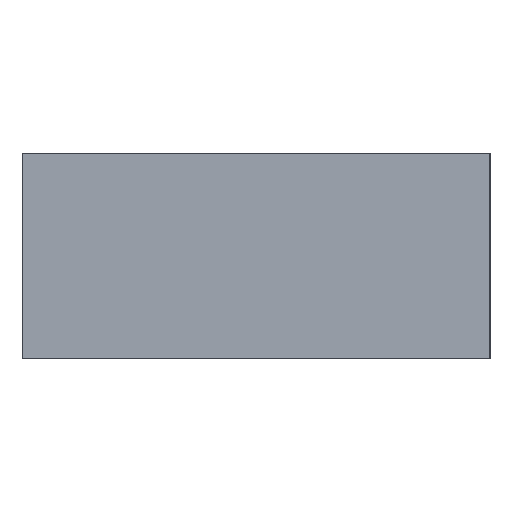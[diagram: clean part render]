
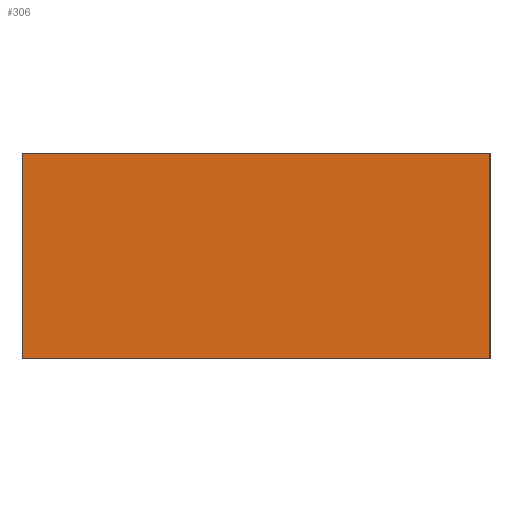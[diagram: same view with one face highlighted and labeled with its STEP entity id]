
A CAD part, left-side view. The second image highlights one B-rep face of the part: STEP entity #306.
In plain terms, the highlighted planar face has unit normal (-1, 0, 0).
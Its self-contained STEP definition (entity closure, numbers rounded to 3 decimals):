
#306=ADVANCED_FACE('',(#717),#719,.T.);
#717=FACE_BOUND('',#718,.T.);
#718=EDGE_LOOP('',(#1022,#1023,#1024,#1025));
#719=PLANE('',#720);
#720=AXIS2_PLACEMENT_3D('',#721,#722,#723);
#721=CARTESIAN_POINT('',(-1.,-0.625,-0.05));
#722=DIRECTION('',(-1.,0.,0.));
#723=DIRECTION('',(0.,0.,1.));
#1022=ORIENTED_EDGE('',*,*,#1201,.T.);
#1023=ORIENTED_EDGE('',*,*,#1214,.T.);
#1024=ORIENTED_EDGE('',*,*,#1206,.F.);
#1025=ORIENTED_EDGE('',*,*,#1215,.F.);
#1201=EDGE_CURVE('',#1357,#1355,#1358,.T.);
#1206=EDGE_CURVE('',#1363,#1365,#1366,.T.);
#1214=EDGE_CURVE('',#1355,#1365,#1377,.T.);
#1215=EDGE_CURVE('',#1357,#1363,#1378,.T.);
#1355=VERTEX_POINT('',#1648);
#1357=VERTEX_POINT('',#1652);
#1358=LINE('',#1653,#1654);
#1363=VERTEX_POINT('',#1666);
#1365=VERTEX_POINT('',#1670);
#1366=LINE('',#1671,#1672);
#1377=LINE('',#1698,#1699);
#1378=LINE('',#1701,#1702);
#1648=CARTESIAN_POINT('',(-1.,-0.625,0.5));
#1652=CARTESIAN_POINT('',(-1.,-0.625,-0.05));
#1653=CARTESIAN_POINT('',(-1.,-0.625,-0.05));
#1654=VECTOR('',#1655,1.);
#1655=DIRECTION('',(0.,0.,1.));
#1666=CARTESIAN_POINT('',(-1.,0.625,-0.05));
#1670=CARTESIAN_POINT('',(-1.,0.625,0.5));
#1671=CARTESIAN_POINT('',(-1.,0.625,-0.05));
#1672=VECTOR('',#1673,1.);
#1673=DIRECTION('',(0.,0.,1.));
#1698=CARTESIAN_POINT('',(-1.,-0.625,0.5));
#1699=VECTOR('',#1700,1.);
#1700=DIRECTION('',(0.,1.,0.));
#1701=CARTESIAN_POINT('',(-1.,-0.625,-0.05));
#1702=VECTOR('',#1703,1.);
#1703=DIRECTION('',(0.,1.,0.));
